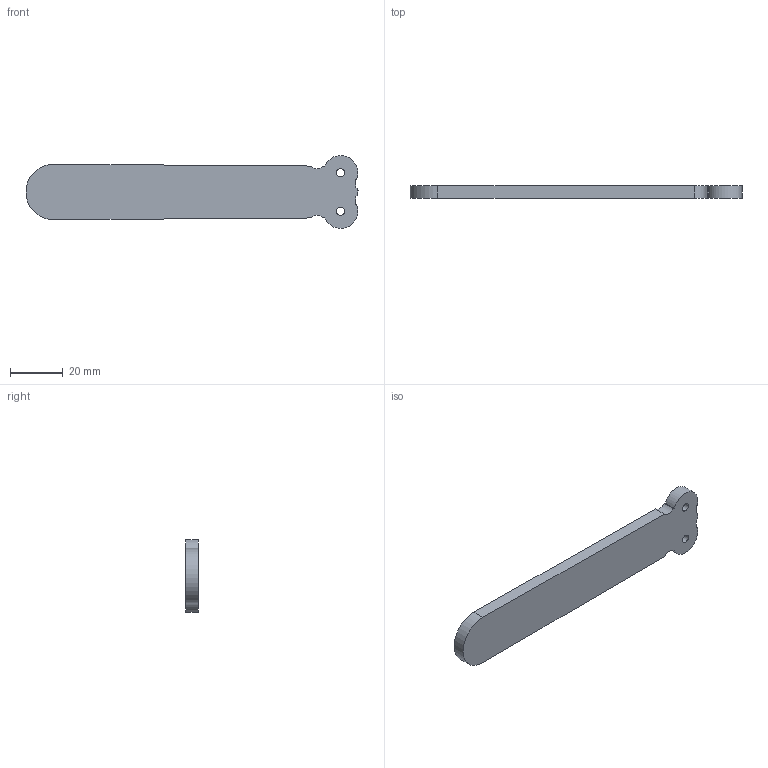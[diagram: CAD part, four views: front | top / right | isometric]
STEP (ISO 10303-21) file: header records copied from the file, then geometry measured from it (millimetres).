
FILE_DESCRIPTION(/* description */ (''),/* implementation_level */ '2;1');
FILE_NAME(/* name */ 'Blank Blade For M3 Screws.step',/* time_stamp */ '2024-01-30T17:36:22-06:00',/* author */ (''),/* organization */ (''),/* preprocessor_version */ 'ST-DEVELOPER v20',/* originating_system */ 'Autodesk Translation Framework v12.14.0.127',/* authorisation */ '');
FILE_SCHEMA (('AUTOMOTIVE_DESIGN { 1 0 10303 214 3 1 1 }'));
Length unit declared in the file: millimetre
Products named in the file (3): Final Balisong; Blank Blade For Printed Screws 2 (1); Screw spacer
Assembly tree (2 placements, depth 2):
  Final Balisong
    Blank Blade For Printed Screws 2 (1)
    Screw spacer
Bounding box: 125.57 x 4.8 x 27.59 mm (x, y, z)
Volume: 12185.6 mm3; surface area: 6566.6 mm2
Topology: 1 solids, 1 shells, 29 faces, 81 edges, 54 vertices
Faces by surface type: plane 16, cylinder 13
Full cylindrical faces by diameter (mm): 3.15 x2
Entity records: 1040 total; most frequent: DIRECTION 175, CARTESIAN_POINT 169, ORIENTED_EDGE 162, EDGE_CURVE 81, AXIS2_PLACEMENT_3D 60, LINE 55, VECTOR 55, VERTEX_POINT 54
